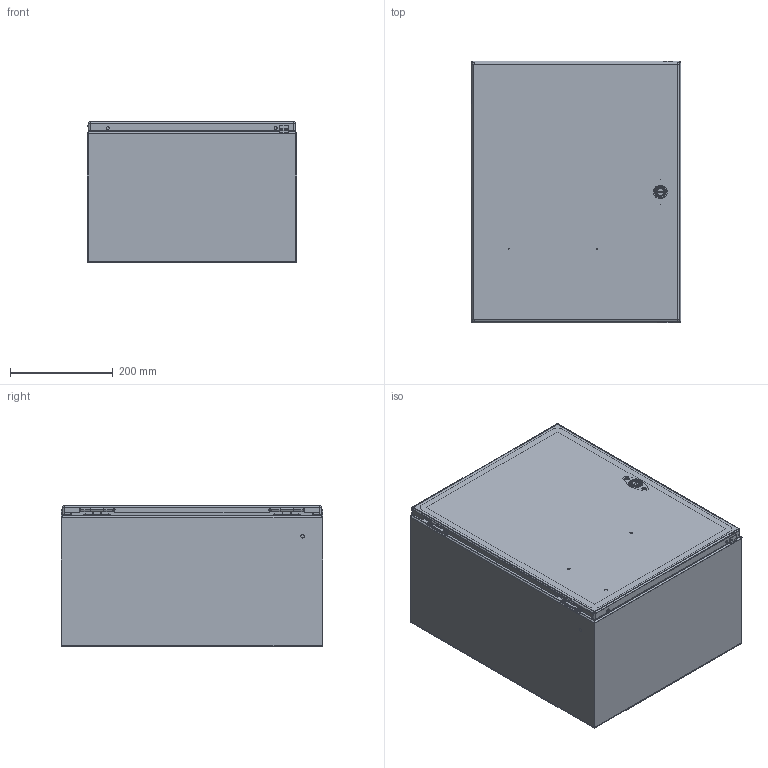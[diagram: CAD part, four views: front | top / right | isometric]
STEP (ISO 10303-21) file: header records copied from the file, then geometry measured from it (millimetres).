
FILE_DESCRIPTION (( 'STEP AP203' ), '1' );
FILE_NAME ('csd201610.STEP', '2012-04-25T13:49:21', ( 'User' ), ( 'Pentair Inc' ), 'SwSTEP 2.0', 'SolidWorks 2010', '' );
FILE_SCHEMA (( 'CONFIG_CONTROL_DESIGN' ));
Length unit declared in the file: inch
Products named in the file (27): 87934343_default; 23271001_After Weld; 87937923_assy; 87937963_weldment; 87937909; 99401225; 87931362_87931362; 64101001; 64201001; 87541994_Installed Height; 87541995; 64202001; 64210001; 64203001; 87927840_87927840; 87932903; 64138001; 89057561; 87543027; 89076399; 89076193; 89056623; 87929507; 87929767; 87929769_Installed on Pin; 87934540; csd201610
Assembly tree (38 placements, depth 4):
  csd201610
    87929507  x2
      87929767
      87929769_Installed on Pin
    87934540
      99401225
      23271001_After Weld  x4
      87934343_default
    89076399  x2
      89076193
      89056623
    87937923_assy
      64138001  x2
      64101001
        87927840_87927840
        64201001
        87541994_Installed Height
        87541995
        64210001
        64202001
        64203001
      87932903  x2
      89057561
      87937963_weldment
        87931362_87931362  x4
        87937909
        99401225
    87543027  x2
Bounding box: 406.4 x 508.73 x 274.7 mm (x, y, z)
Volume: 1314243.5 mm3; surface area: 2010714.6 mm2
Topology: 35 solids, 35 shells, 1689 faces, 4125 edges, 2490 vertices
Faces by surface type: plane 652, cylinder 547, bspline 288, torus 106, cone 88, sphere 8
Entity records: 46223 total; most frequent: CARTESIAN_POINT 16302, ORIENTED_EDGE 5874, DIRECTION 5117, EDGE_CURVE 2937, AXIS2_PLACEMENT_3D 1833, VERTEX_POINT 1802, VECTOR 1451, LINE 1451
